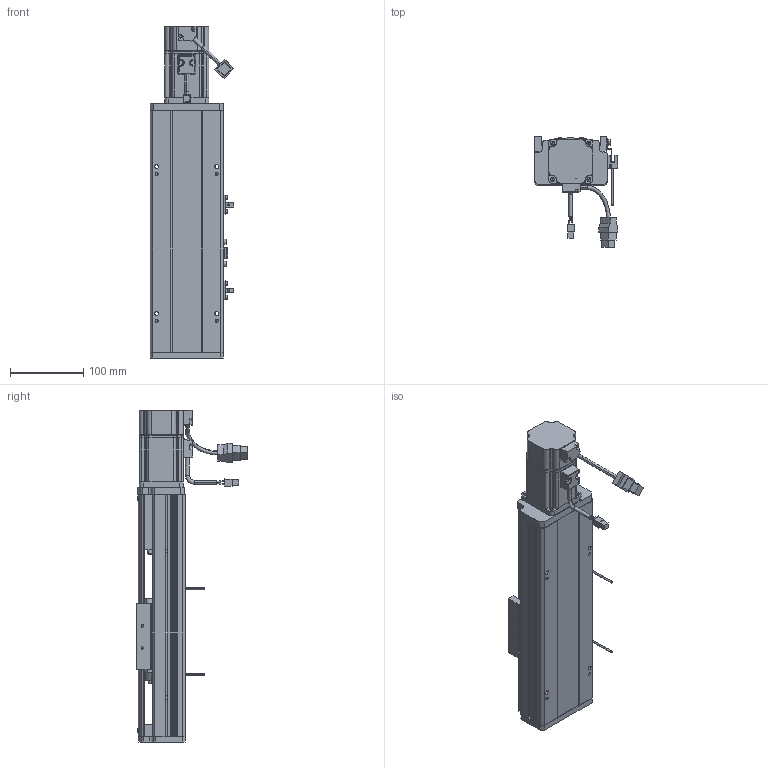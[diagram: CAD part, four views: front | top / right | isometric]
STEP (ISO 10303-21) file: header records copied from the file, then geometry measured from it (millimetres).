
FILE_DESCRIPTION (( 'STEP AP214' ), '1' );
FILE_NAME ('CTH10-100.STEP', '2019-11-18T08:26:49', ( '微软用户' ), ( '微软中国' ), 'SwSTEP 2.0', 'SolidWorks 2017', '' );
FILE_SCHEMA (( 'AUTOMOTIVE_DESIGN' ));
Length unit declared in the file: millimetre
Products named in the file (34): CTH10-100; CTH10-底座_默认<按加工>; CTH10-移动座_默认<按加工>; CTH10-蹟簽蟀諉啣; CTH10-盓傅釱; CTH10-傷啣; CTH10-侜督萇儂啣; SFH1605-288; SFH1605; CTH10-盖板_默认<按加工>; 怢湛200W侜督萇儂ECMA-CX0602ES; CTH10-粣創釱; BEARING_BaseModel20190604090351; 7001-DF; 粣創揤啣; COL12B-粣遠; 坶踡蹟譫; M4-L8囀鞠褒蹟佪; M3-L10囀鞠褒蹟佪; CTH10粣創釱蚾饜极; M5-L20囀鞠褒蹟佪; 遣喳蝶15x12x8; 6000Z粣創; M4-L6半圆头内六角螺丝; EE-SX672; M3-L8囀鞠褒蹟佪; 100耀郪-覜茼んえ; MGN12C; MGN12C-R1; MGN12C-2R420-Z0CHC; 噩砃M3-L10囀鞠褒蹟佪; 噩砃MGN12C; 噩砃MGN12C-R1; 噩砃MGN12C-2R420-Z0CHC
Assembly tree (100 placements, depth 4):
  CTH10-100
    CTH10-底座_默认<按加工>
    CTH10-移动座_默认<按加工>
    CTH10-蹟簽蟀諉啣
    CTH10-盓傅釱
    CTH10-傷啣
    CTH10-侜督萇儂啣
    SFH1605-288
    SFH1605
    CTH10-盖板_默认<按加工>
    怢湛200W侜督萇儂ECMA-CX0602ES
    CTH10粣創釱蚾饜极
      CTH10-粣創釱
      7001-DF
        BEARING_BaseModel20190604090351  x2
      粣創揤啣
      COL12B-粣遠  x2
      坶踡蹟譫
      M4-L8囀鞠褒蹟佪  x4
      M3-L10囀鞠褒蹟佪  x6
    M3-L10囀鞠褒蹟佪  x19
    M5-L20囀鞠褒蹟佪  x4
    遣喳蝶15x12x8  x3
    6000Z粣創
    M4-L6半圆头内六角螺丝  x4
    M4-L8囀鞠褒蹟佪  x8
    EE-SX672  x2
    M3-L8囀鞠褒蹟佪  x4
    100耀郪-覜茼んえ
    MGN12C-2R420-Z0CHC
      MGN12C
      MGN12C-R1  x2
      M3-L10囀鞠褒蹟佪  x8
    噩砃M3-L10囀鞠褒蹟佪
    噩砃MGN12C-2R420-Z0CHC
      噩砃MGN12C
      噩砃MGN12C-R1  x2
      噩砃M3-L10囀鞠褒蹟佪  x8
Bounding box: 114.24 x 151.37 x 452 mm (x, y, z)
Volume: 1441031.1 mm3; surface area: 487033.5 mm2
Topology: 96 solids, 105 shells, 4297 faces, 10682 edges, 6636 vertices
Faces by surface type: plane 2258, cylinder 1152, cone 601, bspline 241, torus 33, sphere 12
Entity records: 84368 total; most frequent: CARTESIAN_POINT 25966, ORIENTED_EDGE 11868, DIRECTION 11215, EDGE_CURVE 5934, AXIS2_PLACEMENT_3D 3890, VERTEX_POINT 3850, VECTOR 3435, LINE 3435
